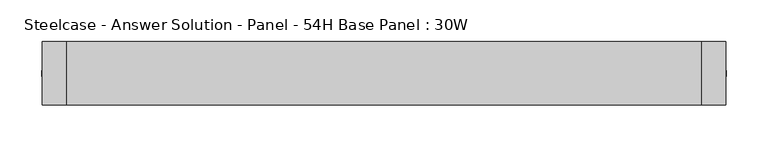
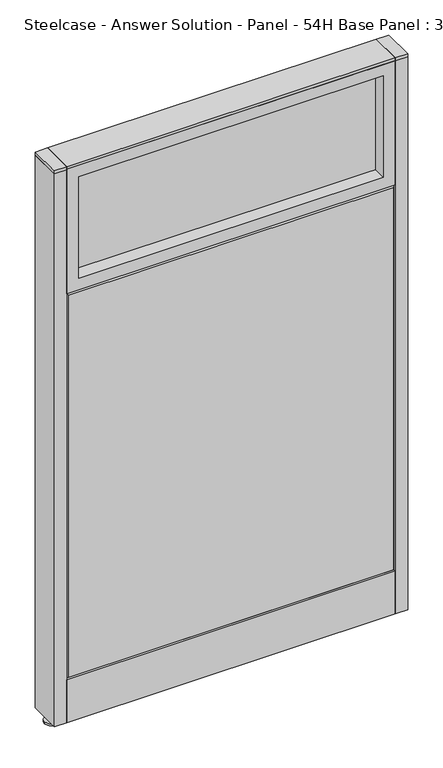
"""IFC4 building model written with IfcOpenShell, lengths in millimetres: furniture geometry, Steelcase - Answer Solution - Panel - 54H Base Panel : 30W."""

from ifc_helpers import new_model, si_unit, point, frame, frame_2d, origin, place, context, project, spatial, polyline, circle_curve, trimmed, segment, composite_curve, outline, extrude, faceted_brep, source, transform, mapped, element, save


def steelcase_answer_solution_panel_54h_base_panel_30w_394640eb(model_context):
    return source(origin(), model_context, "Body", "SolidModel", [
        extrude(outline(composite_curve([segment(trimmed(circle_curve(frame_2d((395.224, 0.0320214)), 5.08), [point((400.304, 0.0320214))], [point((390.144, 0.0320214))], False, "CARTESIAN"), True, "CONTINUOUS"), segment(trimmed(circle_curve(frame_2d((395.224, 0.0320214)), 5.08), [point((390.144, 0.0320214))], [point((400.304, 0.0320214))], False, "CARTESIAN"), True, "CONTINUOUS")], self_intersect=False)), frame((0.0, 0.0, 5.0799671), z_axis=(0.0, 0.0, 1.0), x_axis=(1.0, 0.0, 0.0)), (0.0, 0.0, 1.0), 10.414),
        extrude(outline(composite_curve([segment(trimmed(circle_curve(frame_2d((395.224, 0.0320214)), 15.24), [point((410.464, 0.0320214))], [point((379.984, 0.0320214))], False, "CARTESIAN"), True, "CONTINUOUS"), segment(trimmed(circle_curve(frame_2d((395.224, 0.0320214)), 15.24), [point((379.984, 0.0320214))], [point((410.464, 0.0320214))], False, "CARTESIAN"), True, "CONTINUOUS")], self_intersect=False)), frame((0.0, 0.0, -3.29e-05), z_axis=(0.0, 0.0, 1.0), x_axis=(1.0, 0.0, 0.0)), (0.0, 0.0, 1.0), 5.08),
        extrude(outline(polyline([(409.575, 38.1320408), (409.575, -38.0679592), (381.0, -38.0679592), (381.0, 38.1320408), (409.575, 38.1320408)])), frame((0.0, 0.0, 1370.6348), z_axis=(0.0, 0.0, 1.0), x_axis=(1.0, 0.0, 0.0)), (0.0, 0.0, 1.0), 7.3151671),
        extrude(outline(polyline([(409.575, 38.1320408), (409.575, -38.0679592), (381.0, -38.0679592), (381.0, 38.1320408), (409.575, 38.1320408)])), frame((0.0, 0.0, 15.4939671), z_axis=(0.0, 0.0, 1.0), x_axis=(1.0, 0.0, 0.0)), (0.0, 0.0, 1.0), 1355.1408329),
        extrude(outline(composite_curve([segment(trimmed(circle_curve(frame_2d((-395.224, 0.0320214)), 5.08), [point((-400.304, 0.0320214))], [point((-390.144, 0.0320214))], False, "CARTESIAN"), True, "CONTINUOUS"), segment(trimmed(circle_curve(frame_2d((-395.224, 0.0320214)), 5.08), [point((-390.144, 0.0320214))], [point((-400.304, 0.0320214))], False, "CARTESIAN"), True, "CONTINUOUS")], self_intersect=False)), frame((0.0, 0.0, 5.0799671), z_axis=(0.0, 0.0, 1.0), x_axis=(1.0, 0.0, 0.0)), (0.0, 0.0, 1.0), 10.414),
        extrude(outline(composite_curve([segment(trimmed(circle_curve(frame_2d((-395.224, 0.0320214)), 15.24), [point((-410.464, 0.0320214))], [point((-379.984, 0.0320214))], False, "CARTESIAN"), True, "CONTINUOUS"), segment(trimmed(circle_curve(frame_2d((-395.224, 0.0320214)), 15.24), [point((-379.984, 0.0320214))], [point((-410.464, 0.0320214))], False, "CARTESIAN"), True, "CONTINUOUS")], self_intersect=False)), frame((0.0, 0.0, -3.29e-05), z_axis=(0.0, 0.0, 1.0), x_axis=(1.0, 0.0, 0.0)), (0.0, 0.0, 1.0), 5.08),
        extrude(outline(polyline([(-409.575, 38.1320408), (-381.0, 38.1320408), (-381.0, -38.0679592), (-409.575, -38.0679592), (-409.575, 38.1320408)])), frame((0.0, 0.0, 1370.6348), z_axis=(0.0, 0.0, 1.0), x_axis=(1.0, 0.0, 0.0)), (0.0, 0.0, 1.0), 7.3151671),
        extrude(outline(polyline([(-409.575, 38.1320408), (-381.0, 38.1320408), (-381.0, -38.0679592), (-409.575, -38.0679592), (-409.575, 38.1320408)])), frame((0.0, 0.0, 15.4939671), z_axis=(0.0, 0.0, 1.0), x_axis=(1.0, 0.0, 0.0)), (0.0, 0.0, 1.0), 1355.1408329),
        extrude(outline(polyline([(-353.06, 6.346049), (353.06, 6.346049), (353.06, -6.353951), (-353.06, -6.353951), (-353.06, 6.346049)])), frame((0.0, 0.0, 1094.74), z_axis=(0.0, 0.0, 1.0), x_axis=(1.0, 0.0, 0.0)), (0.0, 0.0, 1.0), 248.92),
        extrude(outline(polyline([(1371.6, -381.0), (1066.8, -381.0), (1066.8, 381.0), (1371.6, 381.0), (1371.6, -381.0)]), holes=[polyline([(1343.66, -353.06), (1343.66, 353.06), (1094.74, 353.06), (1094.74, -353.06), (1343.66, -353.06)])]), frame((0.0, -38.103951, 0.0), z_axis=(0.0, 1.0, 0.0), x_axis=(0.0, 0.0, 1.0)), (0.0, 0.0, 1.0), 76.2),
        faceted_brep([(-376.174, 38.1635011, 1061.974), (376.174, 38.1635011, 1061.974), (376.174, 38.1635011, 125.476), (-376.174, 38.1635011, 125.476), (-381.0, 33.3375011, 1066.8), (-381.0, 33.3375011, 120.65), (381.0, 33.3375011, 120.65), (381.0, 33.3375011, 1066.8)], [[[0, 1, 2, 3]], [[4, 5, 6, 7]], [[4, 7, 1, 0]], [[7, 6, 2, 1]], [[6, 5, 3, 2]], [[5, 4, 0, 3]]]),
        extrude(outline(polyline([(353.06, -6.346049), (-353.06, -6.346049), (-353.06, 6.353951), (353.06, 6.353951), (353.06, -6.346049)])), frame((0.0, 0.0, 1094.74), z_axis=(0.0, 0.0, 1.0), x_axis=(1.0, 0.0, 0.0)), (0.0, 0.0, 1.0), 248.92),
        extrude(outline(polyline([(1371.6, 381.0), (1371.6, -381.0), (1066.8, -381.0), (1066.8, 381.0), (1371.6, 381.0)]), holes=[polyline([(1343.66, 353.06), (1094.74, 353.06), (1094.74, -353.06), (1343.66, -353.06), (1343.66, 353.06)])]), frame((0.0, -38.096049, 0.0), z_axis=(0.0, 1.0, 0.0), x_axis=(0.0, 0.0, 1.0)), (0.0, 0.0, 1.0), 76.2),
        faceted_brep([(376.174, -38.1635011, 1061.974), (-376.174, -38.1635011, 1061.974), (-376.174, -38.1635011, 125.476), (376.174, -38.1635011, 125.476), (381.0, -33.3375011, 1066.8), (381.0, -33.3375011, 120.65), (-381.0, -33.3375011, 120.65), (-381.0, -33.3375011, 1066.8)], [[[0, 1, 2, 3]], [[4, 5, 6, 7]], [[4, 7, 1, 0]], [[7, 6, 2, 1]], [[6, 5, 3, 2]], [[5, 4, 0, 3]]]),
        extrude(outline(polyline([(381.0, 38.1000194), (381.0, -38.1000194), (-381.0, -38.1000194), (-381.0, 38.1000194), (381.0, 38.1000194)])), frame((0.0, 0.0, 1371.6), z_axis=(0.0, 0.0, 1.0), x_axis=(1.0, 0.0, 0.0)), (0.0, 0.0, 1.0), 6.35),
        extrude(outline(polyline([(25.4000011, 119.8575157), (25.4000011, 120.65), (38.1000194, 120.65), (38.1000194, 15.494), (37.3075215, 15.494), (37.3075215, 119.8575157), (25.4000011, 119.8575157)])), frame((-381.0, 0.0, 0.0), z_axis=(1.0, 0.0, 0.0), x_axis=(0.0, 1.0, 0.0)), (0.0, 0.0, 1.0), 762.0),
        extrude(outline(polyline([(-25.4000011, 119.8575157), (-37.3075215, 119.8575157), (-37.3075215, 15.494), (-38.1000194, 15.494), (-38.1000194, 120.65), (-25.4000011, 120.65), (-25.4000011, 119.8575157)])), frame((-381.0, 0.0, 0.0), z_axis=(1.0, 0.0, 0.0), x_axis=(0.0, 1.0, 0.0)), (0.0, 0.0, 1.0), 762.0),
    ])


if __name__ == "__main__":
    model = new_model("IFC4")
    model_context = context("Model", 3, world=origin())
    ifc_project = project(units=[si_unit("LENGTHUNIT", "METRE", prefix="MILLI")], contexts=[model_context])
    site = spatial("IfcSite", under=ifc_project)
    building = spatial("IfcBuilding", under=site)
    placement = place(None, origin())
    steelcase_answer_solution_panel_54h_base_panel_30w_shape = steelcase_answer_solution_panel_54h_base_panel_30w_394640eb(model_context)
    element("IfcFurniture", 1, ObjectType="Steelcase - Answer Solution - Panel - 54H Base Panel : 30W", at=placement, inside=building, context=model_context, shape_type="MappedRepresentation", body=[
        mapped(steelcase_answer_solution_panel_54h_base_panel_30w_shape, transform((0.0, 0.0, 0.0), x_axis=(1.0, 0.0, 0.0), y_axis=(0.0, 1.0, 0.0), z_axis=(0.0, 0.0, 1.0))),
    ])
    save(model, "model.ifc")
